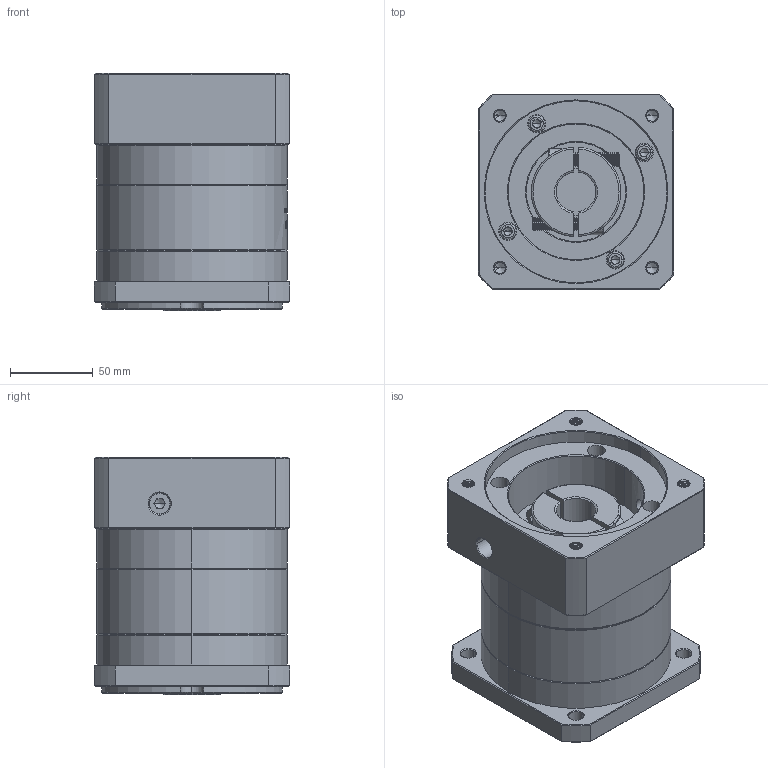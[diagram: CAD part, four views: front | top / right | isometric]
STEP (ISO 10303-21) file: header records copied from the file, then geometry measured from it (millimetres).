
FILE_DESCRIPTION (( 'STEP AP214' ), '1' );
FILE_NAME ('ZF120A-K25-L1-24-110-130-M8.step', '2023-03-07T09:36:57', ( '' ), ( '' ), 'SwSTEP 2.0', 'SolidWorks 2016', '' );
FILE_SCHEMA (( 'AUTOMOTIVE_DESIGN' ));
Length unit declared in the file: millimetre
Products named in the file (1): ZF120A-K25-L1-24-110-130-M8
Bounding box: 118 x 118 x 143.5 mm (x, y, z)
Volume: 1397827.9 mm3; surface area: 163406.9 mm2
Topology: 6 solids, 6 shells, 1888 faces, 4936 edges, 3146 vertices
Faces by surface type: plane 850, cylinder 389, cone 317, bspline 312, torus 20
Entity records: 101335 total; most frequent: CARTESIAN_POINT 37702, ORIENTED_EDGE 9816, DIRECTION 7648, EDGE_CURVE 4908, VERTEX_POINT 3146, VECTOR 2690, LINE 2690, AXIS2_PLACEMENT_3D 2479
